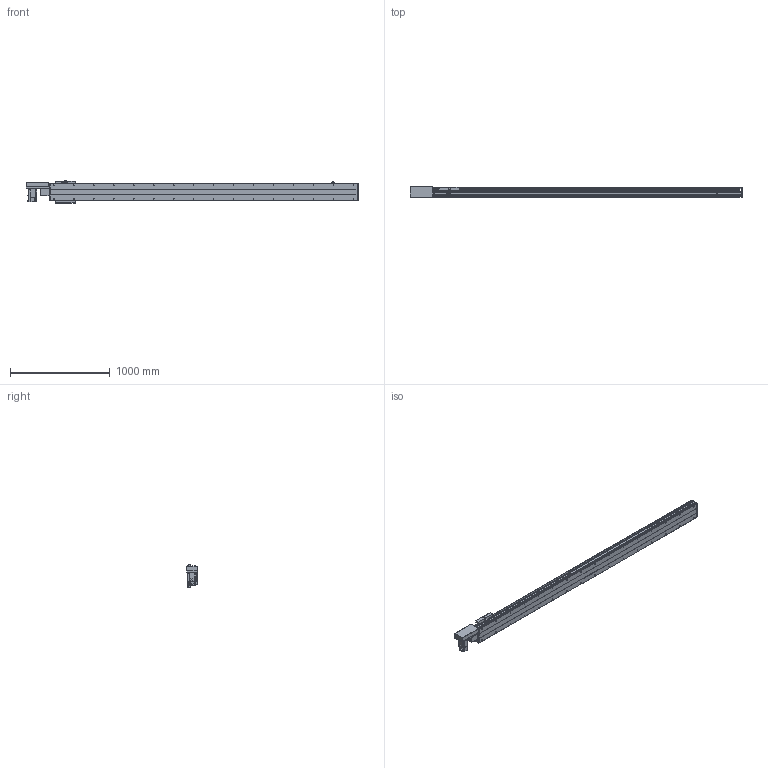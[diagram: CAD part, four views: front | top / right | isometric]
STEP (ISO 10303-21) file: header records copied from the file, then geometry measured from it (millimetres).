
FILE_DESCRIPTION(/* description */ ('STEP AP214'),/* implementation_level */ '2;1');
FILE_NAME(/* name */ 'PBS200-P40-S2700-R-T75-C1-N(0)',/* time_stamp */ '2022-06-11T08:10:55+02:00',/* author */ ('License CC BY-ND 4.0'),/* organization */ ('CADENAS'),/* preprocessor_version */ 'ST-DEVELOPER v18.102',/* originating_system */ 'PARTsolutions',/* authorisation */ ' ');
FILE_SCHEMA (('AUTOMOTIVE_DESIGN {1 0 10303 214 3 1 1}'));
Length unit declared in the file: millimetre
Products named in the file (7): PBS200-P40-S2700-R-T75-C1-N(0); PBS200_sensor; PBS200_plant; PBS200_sliser; T75-p1; PBS200T-R_motors; PBS200-S2700()_body
Assembly tree (8 placements, depth 2):
  PBS200-P40-S2700-R-T75-C1-N(0)
    PBS200_sensor  x3
    PBS200_plant
    PBS200_sliser
    T75-p1
    PBS200T-R_motors
    PBS200-S2700()_body
Bounding box: 3322 x 109 x 221 mm (x, y, z)
Volume: 21853197.8 mm3; surface area: 3493028 mm2
Topology: 8 solids, 8 shells, 968 faces, 2454 edges, 1596 vertices
Faces by surface type: plane 590, cylinder 314, cone 64
Full cylindrical faces by diameter (mm): 2.459 x6, 3.242 x4, 4.5 x6, 4.917 x4, 5 x6, 6 x7, 6.6 x8, 6.647 x36, 8 x6, 10 x4, 12 x8, 38 x2, 40 x1, 70 x1
Entity records: 25541 total; most frequent: DIRECTION 4519, CARTESIAN_POINT 4336, ORIENTED_EDGE 4078, EDGE_CURVE 2039, AXIS2_PLACEMENT_3D 1603, VERTEX_POINT 1420, LINE 1313, VECTOR 1313
